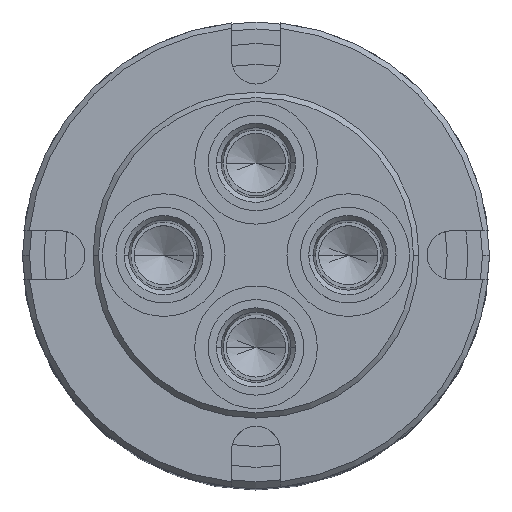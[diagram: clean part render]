
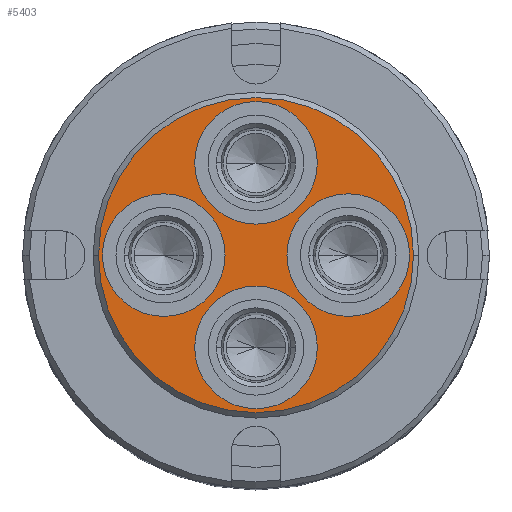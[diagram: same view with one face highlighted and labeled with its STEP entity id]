
A CAD part, top view. The second image highlights one B-rep face of the part: STEP entity #5403.
In plain terms, the highlighted planar face has unit normal (0, 0, 1).
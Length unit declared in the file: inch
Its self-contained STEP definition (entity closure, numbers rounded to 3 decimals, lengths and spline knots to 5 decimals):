
#72 = CIRCLE ( 'NONE', #77, 0.353 ) ;
#77 = AXIS2_PLACEMENT_3D ( 'NONE', #1287, #1288, #1289 ) ;
#80 = CIRCLE ( 'NONE', #89, 0.9065 ) ;
#89 = AXIS2_PLACEMENT_3D ( 'NONE', #1347, #1348, #1349 ) ;
#161 = AXIS2_PLACEMENT_3D ( 'NONE', #6327, #6328, #6329 ) ;
#162 = CIRCLE ( 'NONE', #161, 0.9065 ) ;
#276 = CIRCLE ( 'NONE', #288, 0.353 ) ;
#288 = AXIS2_PLACEMENT_3D ( 'NONE', #6803, #6804, #6805 ) ;
#377 = AXIS2_PLACEMENT_3D ( 'NONE', #887, #888, #889 ) ;
#442 = AXIS2_PLACEMENT_3D ( 'NONE', #776, #777, #778 ) ;
#452 = CIRCLE ( 'NONE', #377, 0.353 ) ;
#767 = FACE_BOUND ( 'NONE', #3270, .T. ) ;
#768 = FACE_BOUND ( 'NONE', #3256, .T. ) ;
#769 = FACE_BOUND ( 'NONE', #3322, .T. ) ;
#770 = FACE_BOUND ( 'NONE', #3337, .T. ) ;
#771 = FACE_OUTER_BOUND ( 'NONE', #3240, .T. ) ;
#775 = PLANE ( 'NONE',  #442 ) ;
#776 = CARTESIAN_POINT ( 'NONE',  ( 0., 0., 0. ) ) ;
#777 = DIRECTION ( 'NONE',  ( 0., 0., -1. ) ) ;
#778 = DIRECTION ( 'NONE',  ( -1., 0., 0. ) ) ;
#887 = CARTESIAN_POINT ( 'NONE',  ( 0., 0.531, 0. ) ) ;
#888 = DIRECTION ( 'NONE',  ( 0., 0., 1. ) ) ;
#889 = DIRECTION ( 'NONE',  ( 1., 0., 0. ) ) ;
#1287 = CARTESIAN_POINT ( 'NONE',  ( -0.531, 0., 0. ) ) ;
#1288 = DIRECTION ( 'NONE',  ( 0., 0., 1. ) ) ;
#1289 = DIRECTION ( 'NONE',  ( 0., 1., 0. ) ) ;
#1347 = CARTESIAN_POINT ( 'NONE',  ( 0., 0., 0. ) ) ;
#1348 = DIRECTION ( 'NONE',  ( 0., 0., 1. ) ) ;
#1349 = DIRECTION ( 'NONE',  ( -1., 0., 0. ) ) ;
#1537 = VERTEX_POINT ( 'NONE', #1642 ) ;
#1545 = VERTEX_POINT ( 'NONE', #1650 ) ;
#1546 = VERTEX_POINT ( 'NONE', #1651 ) ;
#1551 = VERTEX_POINT ( 'NONE', #1656 ) ;
#1605 = VERTEX_POINT ( 'NONE', #1710 ) ;
#1606 = VERTEX_POINT ( 'NONE', #1711 ) ;
#1642 = CARTESIAN_POINT ( 'NONE',  ( 0.884, 0., 0. ) ) ;
#1650 = CARTESIAN_POINT ( 'NONE',  ( -0.9065, 0., 0. ) ) ;
#1651 = CARTESIAN_POINT ( 'NONE',  ( -0.353, 0.531, 0. ) ) ;
#1656 = CARTESIAN_POINT ( 'NONE',  ( 0.353, 0.531, 0. ) ) ;
#1710 = CARTESIAN_POINT ( 'NONE',  ( 0.178, 0., 0. ) ) ;
#1711 = CARTESIAN_POINT ( 'NONE',  ( 0.9065, 0., 0. ) ) ;
#1767 = CARTESIAN_POINT ( 'NONE',  ( -0.178, 0., 0. ) ) ;
#1777 = CARTESIAN_POINT ( 'NONE',  ( -0.884, 0., 0. ) ) ;
#1842 = CARTESIAN_POINT ( 'NONE',  ( 0.353, -0.531, 0. ) ) ;
#1859 = CARTESIAN_POINT ( 'NONE',  ( -0.353, -0.531, 0. ) ) ;
#1922 = CARTESIAN_POINT ( 'NONE',  ( 0.531, 0., 0. ) ) ;
#1923 = DIRECTION ( 'NONE',  ( 0., 0., 1. ) ) ;
#1924 = DIRECTION ( 'NONE',  ( 0., -1., 0. ) ) ;
#2195 = CARTESIAN_POINT ( 'NONE',  ( 0., 0.531, 0. ) ) ;
#2196 = DIRECTION ( 'NONE',  ( 0., 0., 1. ) ) ;
#2197 = DIRECTION ( 'NONE',  ( 1., 0., 0. ) ) ;
#2223 = CARTESIAN_POINT ( 'NONE',  ( 0.531, 0., 0. ) ) ;
#2224 = DIRECTION ( 'NONE',  ( 0., 0., 1. ) ) ;
#2225 = DIRECTION ( 'NONE',  ( 0., -1., 0. ) ) ;
#2276 = CARTESIAN_POINT ( 'NONE',  ( 0., -0.531, 0. ) ) ;
#2277 = DIRECTION ( 'NONE',  ( 0., 0., 1. ) ) ;
#2278 = DIRECTION ( 'NONE',  ( -1., 0., 0. ) ) ;
#2689 = ORIENTED_EDGE ( 'NONE', *, *, #5505, .F. ) ;
#2690 = ORIENTED_EDGE ( 'NONE', *, *, #5295, .F. ) ;
#2691 = ORIENTED_EDGE ( 'NONE', *, *, #5073, .F. ) ;
#2692 = ORIENTED_EDGE ( 'NONE', *, *, #5650, .F. ) ;
#2693 = ORIENTED_EDGE ( 'NONE', *, *, #5059, .F. ) ;
#2694 = ORIENTED_EDGE ( 'NONE', *, *, #5002, .F. ) ;
#2695 = ORIENTED_EDGE ( 'NONE', *, *, #5429, .F. ) ;
#2696 = ORIENTED_EDGE ( 'NONE', *, *, #5052, .F. ) ;
#2697 = ORIENTED_EDGE ( 'NONE', *, *, #5559, .T. ) ;
#2698 = ORIENTED_EDGE ( 'NONE', *, *, #5514, .T. ) ;
#3240 = EDGE_LOOP ( 'NONE', ( #2697, #2698 ) ) ;
#3256 = EDGE_LOOP ( 'NONE', ( #2695, #2696 ) ) ;
#3270 = EDGE_LOOP ( 'NONE', ( #2693, #2694 ) ) ;
#3322 = EDGE_LOOP ( 'NONE', ( #2689, #2690 ) ) ;
#3337 = EDGE_LOOP ( 'NONE', ( #2691, #2692 ) ) ;
#3826 = VERTEX_POINT ( 'NONE', #1767 ) ;
#3836 = VERTEX_POINT ( 'NONE', #1777 ) ;
#3901 = VERTEX_POINT ( 'NONE', #1842 ) ;
#3918 = VERTEX_POINT ( 'NONE', #1859 ) ;
#4704 = CARTESIAN_POINT ( 'NONE',  ( -0.531, 0., 0. ) ) ;
#4705 = DIRECTION ( 'NONE',  ( 0., 0., 1. ) ) ;
#4706 = DIRECTION ( 'NONE',  ( 0., 1., 0. ) ) ;
#5002 = EDGE_CURVE ( 'NONE', #1605, #1537, #6026, .T. ) ;
#5052 = EDGE_CURVE ( 'NONE', #1546, #1551, #6075, .T. ) ;
#5059 = EDGE_CURVE ( 'NONE', #1537, #1605, #6086, .T. ) ;
#5073 = EDGE_CURVE ( 'NONE', #3901, #3918, #5869, .T. ) ;
#5295 = EDGE_CURVE ( 'NONE', #3836, #3826, #5878, .T. ) ;
#5403 = ADVANCED_FACE ( 'NONE', ( #769, #770, #767, #768, #771 ), #775, .F. ) ;
#5429 = EDGE_CURVE ( 'NONE', #1551, #1546, #452, .T. ) ;
#5505 = EDGE_CURVE ( 'NONE', #3826, #3836, #72, .T. ) ;
#5514 = EDGE_CURVE ( 'NONE', #1606, #1545, #80, .T. ) ;
#5559 = EDGE_CURVE ( 'NONE', #1545, #1606, #162, .T. ) ;
#5650 = EDGE_CURVE ( 'NONE', #3918, #3901, #276, .T. ) ;
#5745 = AXIS2_PLACEMENT_3D ( 'NONE', #4704, #4705, #4706 ) ;
#5849 = AXIS2_PLACEMENT_3D ( 'NONE', #2276, #2277, #2278 ) ;
#5869 = CIRCLE ( 'NONE', #5849, 0.353 ) ;
#5878 = CIRCLE ( 'NONE', #5745, 0.353 ) ;
#5907 = AXIS2_PLACEMENT_3D ( 'NONE', #1922, #1923, #1924 ) ;
#6026 = CIRCLE ( 'NONE', #5907, 0.353 ) ;
#6055 = AXIS2_PLACEMENT_3D ( 'NONE', #2195, #2196, #2197 ) ;
#6075 = CIRCLE ( 'NONE', #6055, 0.353 ) ;
#6086 = CIRCLE ( 'NONE', #6143, 0.353 ) ;
#6143 = AXIS2_PLACEMENT_3D ( 'NONE', #2223, #2224, #2225 ) ;
#6327 = CARTESIAN_POINT ( 'NONE',  ( 0., 0., 0. ) ) ;
#6328 = DIRECTION ( 'NONE',  ( 0., 0., 1. ) ) ;
#6329 = DIRECTION ( 'NONE',  ( -1., 0., 0. ) ) ;
#6803 = CARTESIAN_POINT ( 'NONE',  ( 0., -0.531, 0. ) ) ;
#6804 = DIRECTION ( 'NONE',  ( 0., 0., 1. ) ) ;
#6805 = DIRECTION ( 'NONE',  ( -1., 0., 0. ) ) ;
